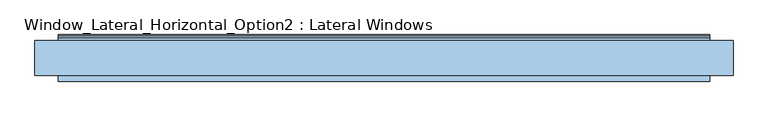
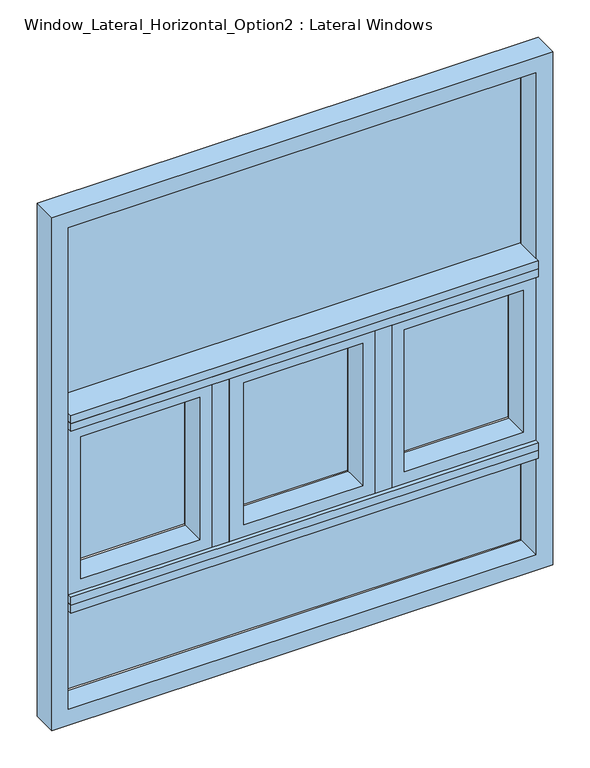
"""IFC4 building model written with IfcOpenShell, lengths in millimetres: window geometry, Window_Lateral_Horizontal_Option2 : Lateral Windows."""

from ifc_helpers import new_model, si_unit, frame, origin, place, context, project, spatial, polyline, outline, extrude, source, transform, mapped, element, save


def window_lateral_horizontal_option2_lateral_windows_0b92641a(model_context):
    return source(origin(), model_context, "Body", "SweptSolid", [
        extrude(outline(polyline([(4216.4, 1524.0), (4216.4, -1524.0), (914.4, -1524.0), (914.4, 1524.0), (4216.4, 1524.0)]), holes=[polyline([(1016.0, 1422.4), (1016.0, -1422.4), (4114.8, -1422.4), (4114.8, 1422.4), (1016.0, 1422.4)])]), frame((0.0, -76.2, 0.0), z_axis=(0.0, 1.0, 0.0), x_axis=(0.0, 0.0, 1.0)), (0.0, 0.0, 1.0), 152.4),
        extrude(outline(polyline([(-1422.4, -101.6), (-1422.4, 101.6), (1422.4, 101.6), (1422.4, -101.6), (-1422.4, -101.6)])), frame((0.0, 0.0, 2870.2), z_axis=(0.0, 0.0, 1.0), x_axis=(1.0, 0.0, 0.0)), (0.0, 0.0, 1.0), 50.8),
        extrude(outline(polyline([(-1422.4, -101.6), (-1422.4, 101.6), (1422.4, 101.6), (1422.4, -101.6), (-1422.4, -101.6)])), frame((0.0, 0.0, 1701.8), z_axis=(0.0, 0.0, 1.0), x_axis=(1.0, 0.0, 0.0)), (0.0, 0.0, 1.0), 50.8),
        extrude(outline(polyline([(-1422.4, -101.6), (-1422.4, 101.6), (1422.4, 101.6), (1422.4, -101.6), (-1422.4, -101.6)])), frame((0.0, 0.0, 2819.4), z_axis=(0.0, 0.0, 1.0), x_axis=(1.0, 0.0, 0.0)), (0.0, 0.0, 1.0), 50.8),
        extrude(outline(polyline([(-1422.4, -101.6), (-1422.4, 101.6), (1422.4, 101.6), (1422.4, -101.6), (-1422.4, -101.6)])), frame((0.0, 0.0, 1651.0), z_axis=(0.0, 0.0, 1.0), x_axis=(1.0, 0.0, 0.0)), (0.0, 0.0, 1.0), 50.8),
        extrude(outline(polyline([(546.3453728, -76.2), (444.7453728, -76.2), (444.7453728, 76.2), (546.3453728, 76.2), (546.3453728, -76.2)])), frame((0.0, 0.0, 1752.6), z_axis=(0.0, 0.0, 1.0), x_axis=(1.0, 0.0, 0.0)), (0.0, 0.0, 1.0), 1066.8),
        extrude(outline(polyline([(-444.7453728, -76.2), (-546.3453728, -76.2), (-546.3453728, 76.2), (-444.7453728, 76.2), (-444.7453728, -76.2)])), frame((0.0, 0.0, 1752.6), z_axis=(0.0, 0.0, 1.0), x_axis=(1.0, 0.0, 0.0)), (0.0, 0.0, 1.0), 1066.8),
        extrude(outline(polyline([(1752.6, 1422.4), (2819.4, 1422.4), (2819.4, 546.3453728), (1752.6, 546.3453728), (1752.6, 1422.4)]), holes=[polyline([(1828.8, 1346.2), (1828.8, 622.5453728), (2743.2, 622.5453728), (2743.2, 1346.2), (1828.8, 1346.2)])]), frame((0.0, -76.2, 0.0), z_axis=(0.0, 1.0, 0.0), x_axis=(0.0, 0.0, 1.0)), (0.0, 0.0, 1.0), 152.4),
        extrude(outline(polyline([(1752.6, 444.7453728), (2819.4, 444.7453728), (2819.4, -444.7453728), (1752.6, -444.7453728), (1752.6, 444.7453728)]), holes=[polyline([(1828.8, 368.5453728), (1828.8, -355.1092545), (2743.2, -355.1092545), (2743.2, 368.5453728), (1828.8, 368.5453728)])]), frame((0.0, -76.2, 0.0), z_axis=(0.0, 1.0, 0.0), x_axis=(0.0, 0.0, 1.0)), (0.0, 0.0, 1.0), 152.4),
        extrude(outline(polyline([(1752.6, -546.3453728), (2819.4, -546.3453728), (2819.4, -1422.4), (1752.6, -1422.4), (1752.6, -546.3453728)]), holes=[polyline([(1828.8, -622.5453728), (1828.8, -1346.2), (2743.2, -1346.2), (2743.2, -622.5453728), (1828.8, -622.5453728)])]), frame((0.0, -76.2, 0.0), z_axis=(0.0, 1.0, 0.0), x_axis=(0.0, 0.0, 1.0)), (0.0, 0.0, 1.0), 152.4),
        extrude(outline(polyline([(-622.5453728, 95.25), (-622.5453728, 88.9), (-1346.2, 88.9), (-1346.2, 95.25), (-622.5453728, 95.25)])), frame((0.0, 0.0, 1828.8), z_axis=(0.0, 0.0, 1.0), x_axis=(1.0, 0.0, 0.0)), (0.0, 0.0, 1.0), 914.4),
        extrude(outline(polyline([(368.5453728, 95.25), (368.5453728, 88.9), (-355.1092545, 88.9), (-355.1092545, 95.25), (368.5453728, 95.25)])), frame((0.0, 0.0, 1828.8), z_axis=(0.0, 0.0, 1.0), x_axis=(1.0, 0.0, 0.0)), (0.0, 0.0, 1.0), 914.4),
        extrude(outline(polyline([(1346.2, 95.25), (1346.2, 88.9), (622.5453728, 88.9), (622.5453728, 95.25), (1346.2, 95.25)])), frame((0.0, 0.0, 1828.8), z_axis=(0.0, 0.0, 1.0), x_axis=(1.0, 0.0, 0.0)), (0.0, 0.0, 1.0), 914.4),
        extrude(outline(polyline([(1422.4, 95.25), (1422.4, 88.9), (-1422.4, 88.9), (-1422.4, 95.25), (1422.4, 95.25)])), frame((0.0, 0.0, 1016.0), z_axis=(0.0, 0.0, 1.0), x_axis=(1.0, 0.0, 0.0)), (0.0, 0.0, 1.0), 635.0),
        extrude(outline(polyline([(1422.4, 95.25), (1422.4, 88.9), (-1422.4, 88.9), (-1422.4, 95.25), (1422.4, 95.25)])), frame((0.0, 0.0, 2921.0), z_axis=(0.0, 0.0, 1.0), x_axis=(1.0, 0.0, 0.0)), (0.0, 0.0, 1.0), 1193.8),
    ])


if __name__ == "__main__":
    model = new_model("IFC4")
    model_context = context("Model", 3, world=origin())
    ifc_project = project(units=[si_unit("LENGTHUNIT", "METRE", prefix="MILLI")], contexts=[model_context])
    site = spatial("IfcSite", under=ifc_project)
    building = spatial("IfcBuilding", under=site)
    placement = place(None, origin())
    window_lateral_horizontal_option2_lateral_windows_shape = window_lateral_horizontal_option2_lateral_windows_0b92641a(model_context)
    element("IfcWindow", 1, ObjectType="Window_Lateral_Horizontal_Option2 : Lateral Windows", at=placement, inside=building, context=model_context, shape_type="MappedRepresentation", body=[
        mapped(window_lateral_horizontal_option2_lateral_windows_shape, transform((0.0, 0.0, 0.0), x_axis=(1.0, 0.0, 0.0), y_axis=(0.0, 1.0, 0.0), z_axis=(0.0, 0.0, 1.0))),
    ])
    save(model, "model.ifc")
